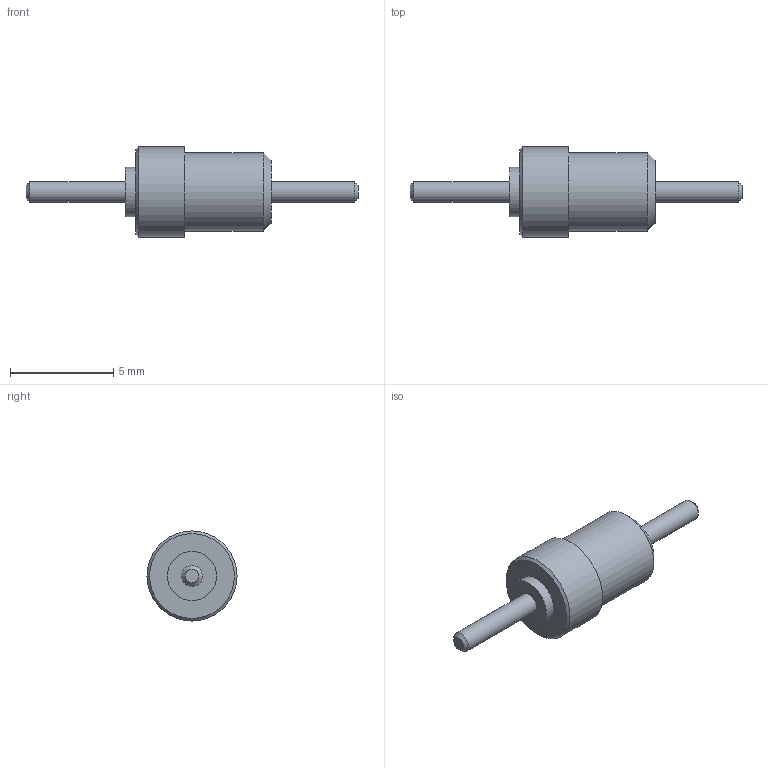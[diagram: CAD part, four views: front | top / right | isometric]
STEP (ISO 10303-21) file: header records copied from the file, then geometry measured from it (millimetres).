
FILE_DESCRIPTION(/* description */ (''),/* implementation_level */ '2;1');
FILE_NAME(/* name */ '\\Snap1\dwgs\Customer 3D Models\571\571-4177-03 Customer model.stp',/* time_stamp */ '2017-01-06T11:36:16+00:00',/* author */ ('paulk'),/* organization */ (''),/* preprocessor_version */ 'ST-DEVELOPER v15.2',/* originating_system */ 'Autodesk Inventor 2014',/* authorisation */ '');
FILE_SCHEMA (('CONFIG_CONTROL_DESIGN'));
Length unit declared in the file: millimetre
Products named in the file (1): 571-4177-03 Customer model
Bounding box: 16.1 x 4.37 x 4.37 mm (x, y, z)
Volume: 91.2 mm3; surface area: 140.3 mm2
Topology: 1 solids, 1 shells, 15 faces, 24 edges, 15 vertices
Faces by surface type: plane 6, cylinder 5, cone 4
Full cylindrical faces by diameter (mm): 1.016 x2, 2.388 x1, 3.785 x1, 4.369 x1
Entity records: 344 total; most frequent: DIRECTION 60, CARTESIAN_POINT 44, AXIS2_PLACEMENT_3D 30, EDGE_LOOP 28, ORIENTED_EDGE 28, FACE_BOUND 17, STYLED_ITEM 16, ADVANCED_FACE 15
